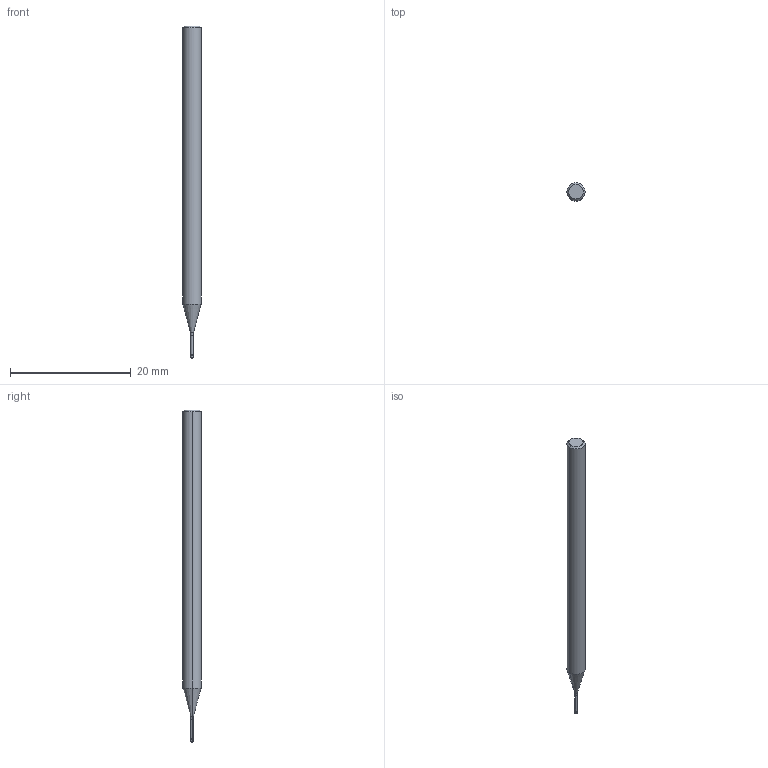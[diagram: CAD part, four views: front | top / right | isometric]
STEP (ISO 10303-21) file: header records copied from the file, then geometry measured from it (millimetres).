
FILE_DESCRIPTION (( 'STEP AP214' ), '1' );
FILE_NAME ('565.041.75_3D-model.step', '2022-02-18T18:28:49', ( '' ), ( '' ), 'SwSTEP 2.0', 'SolidWorks 2020', '' );
FILE_SCHEMA (( 'AUTOMOTIVE_DESIGN' ));
Length unit declared in the file: millimetre
Products named in the file (3): 565.041.75_3D-model; CUT-3D^Baugr148; NOCUT-3D^Baugr148
Assembly tree (2 placements, depth 2):
  565.041.75_3D-model
    CUT-3D^Baugr148
    NOCUT-3D^Baugr148
Bounding box: 3 x 3 x 55 mm (x, y, z)
Volume: 338.7 mm3; surface area: 471.1 mm2
Topology: 2 solids, 2 shells, 20 faces, 36 edges, 20 vertices
Faces by surface type: cylinder 6, cone 6, torus 4, plane 4
Entity records: 610 total; most frequent: DIRECTION 116, CARTESIAN_POINT 84, ORIENTED_EDGE 72, AXIS2_PLACEMENT_3D 52, EDGE_CURVE 36, CIRCLE 24, VERTEX_POINT 20, ADVANCED_FACE 20
